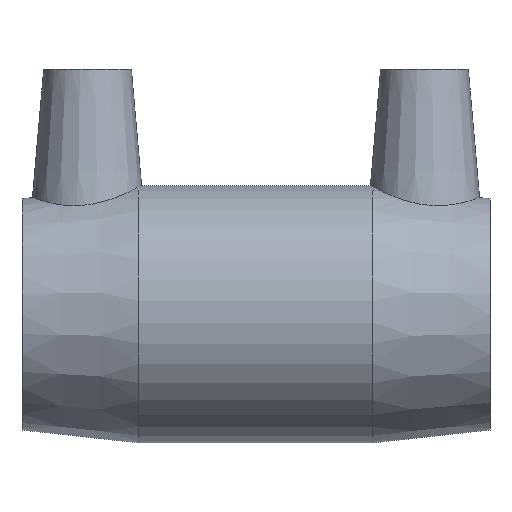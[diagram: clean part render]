
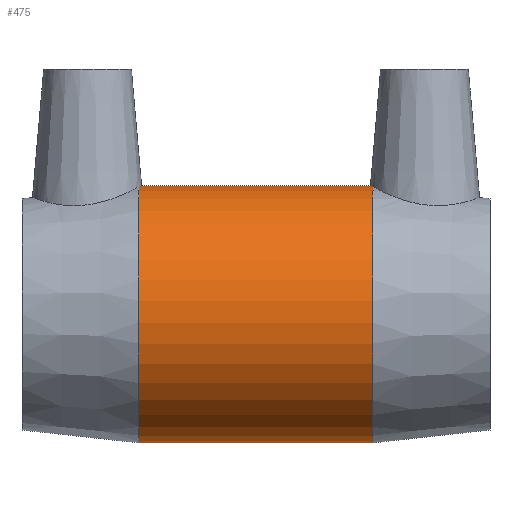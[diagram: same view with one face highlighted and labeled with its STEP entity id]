
A CAD part, top view. The second image highlights one B-rep face of the part: STEP entity #475.
In plain terms, the highlighted cylindrical face has radius 21.971 mm (diameter 43.942 mm), a full revolution.
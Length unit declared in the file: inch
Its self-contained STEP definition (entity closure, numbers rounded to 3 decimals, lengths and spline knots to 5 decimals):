
#47=LINE('',#894,#63);
#63=VECTOR('',#649,0.865);
#77=CYLINDRICAL_SURFACE('',#537,0.865);
#97=FACE_OUTER_BOUND('',#131,.T.);
#131=EDGE_LOOP('',(#357,#358,#359,#360,#361,#362,#363,#364));
#163=CIRCLE('',#533,0.865);
#164=CIRCLE('',#536,0.865);
#165=CIRCLE('',#538,0.865);
#166=CIRCLE('',#539,0.865);
#167=CIRCLE('',#540,0.865);
#168=CIRCLE('',#541,0.865);
#207=VERTEX_POINT('',#785);
#210=VERTEX_POINT('',#810);
#211=VERTEX_POINT('',#839);
#213=VERTEX_POINT('',#851);
#215=VERTEX_POINT('',#891);
#216=VERTEX_POINT('',#893);
#264=EDGE_CURVE('',#210,#207,#163,.T.);
#270=EDGE_CURVE('',#213,#211,#164,.T.);
#271=EDGE_CURVE('',#215,#210,#165,.T.);
#272=EDGE_CURVE('',#215,#216,#47,.T.);
#273=EDGE_CURVE('',#216,#213,#166,.T.);
#274=EDGE_CURVE('',#211,#216,#167,.T.);
#275=EDGE_CURVE('',#207,#215,#168,.T.);
#357=ORIENTED_EDGE('',*,*,#264,.F.);
#358=ORIENTED_EDGE('',*,*,#271,.F.);
#359=ORIENTED_EDGE('',*,*,#272,.T.);
#360=ORIENTED_EDGE('',*,*,#273,.T.);
#361=ORIENTED_EDGE('',*,*,#270,.T.);
#362=ORIENTED_EDGE('',*,*,#274,.T.);
#363=ORIENTED_EDGE('',*,*,#272,.F.);
#364=ORIENTED_EDGE('',*,*,#275,.F.);
#475=ADVANCED_FACE('',(#97),#77,.T.);
#533=AXIS2_PLACEMENT_3D('',#837,#636,#637);
#536=AXIS2_PLACEMENT_3D('',#889,#643,#644);
#537=AXIS2_PLACEMENT_3D('',#890,#645,#646);
#538=AXIS2_PLACEMENT_3D('',#892,#647,#648);
#539=AXIS2_PLACEMENT_3D('',#895,#650,#651);
#540=AXIS2_PLACEMENT_3D('',#896,#652,#653);
#541=AXIS2_PLACEMENT_3D('',#897,#654,#655);
#636=DIRECTION('center_axis',(1.,0.,0.));
#637=DIRECTION('ref_axis',(0.,0.,-1.));
#643=DIRECTION('center_axis',(1.,0.,0.));
#644=DIRECTION('ref_axis',(0.,0.,-1.));
#645=DIRECTION('center_axis',(1.,0.,0.));
#646=DIRECTION('ref_axis',(0.,1.,0.));
#647=DIRECTION('center_axis',(1.,0.,0.));
#648=DIRECTION('ref_axis',(0.,0.,-1.));
#649=DIRECTION('',(-1.,0.,0.));
#650=DIRECTION('center_axis',(1.,0.,0.));
#651=DIRECTION('ref_axis',(0.,0.,-1.));
#652=DIRECTION('center_axis',(1.,0.,0.));
#653=DIRECTION('ref_axis',(0.,0.,-1.));
#654=DIRECTION('center_axis',(1.,0.,0.));
#655=DIRECTION('ref_axis',(0.,0.,-1.));
#785=CARTESIAN_POINT('',(0.7875,0.85752,0.11348));
#810=CARTESIAN_POINT('',(0.7875,0.85752,-0.11348));
#837=CARTESIAN_POINT('Origin',(0.7875,0.,0.));
#839=CARTESIAN_POINT('',(-0.7875,0.85752,0.11348));
#851=CARTESIAN_POINT('',(-0.7875,0.85752,-0.11348));
#889=CARTESIAN_POINT('Origin',(-0.7875,0.,0.));
#890=CARTESIAN_POINT('Origin',(0.,0.,0.));
#891=CARTESIAN_POINT('',(0.7875,-0.865,0.));
#892=CARTESIAN_POINT('Origin',(0.7875,0.,0.));
#893=CARTESIAN_POINT('',(-0.7875,-0.865,0.));
#894=CARTESIAN_POINT('',(0.,-0.865,0.));
#895=CARTESIAN_POINT('Origin',(-0.7875,0.,0.));
#896=CARTESIAN_POINT('Origin',(-0.7875,0.,0.));
#897=CARTESIAN_POINT('Origin',(0.7875,0.,0.));
